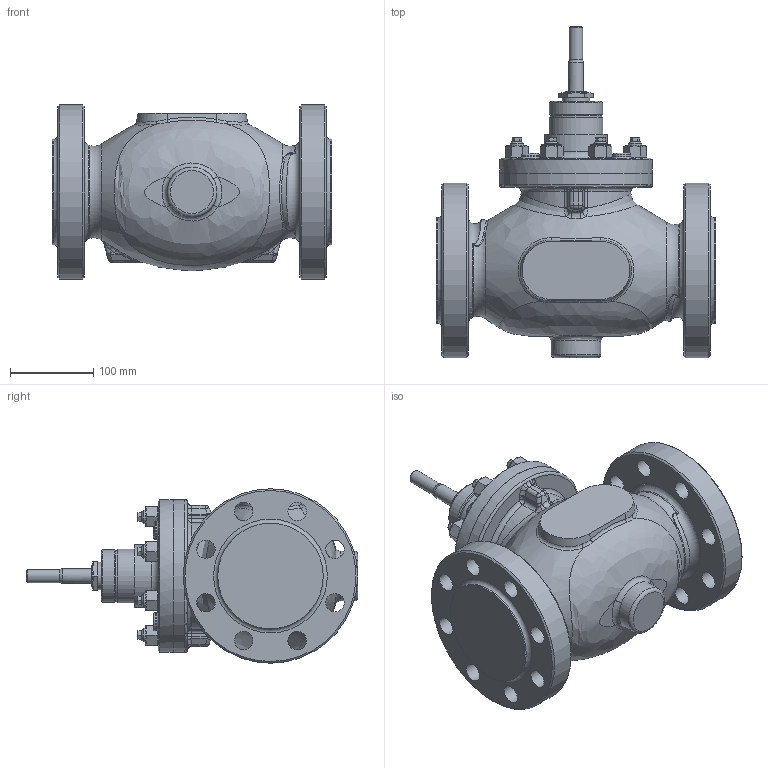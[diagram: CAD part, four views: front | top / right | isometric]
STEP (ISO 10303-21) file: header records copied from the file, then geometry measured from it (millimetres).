
FILE_DESCRIPTION(/* description */ (''),/* implementation_level */ '2;1');
FILE_NAME(/* name */ 'CV3xx_NPS_1_priruba_CL600.stp',/* time_stamp */ '2014-01-07T06:42:09+01:00',/* author */ (''),/* organization */ ('LDM'),/* preprocessor_version */ 'ST-DEVELOPER v11',/* originating_system */ 'SIEMENS PLM Software NX 7.0',/* authorisation */ '');
FILE_SCHEMA (('CONFIG_CONTROL_DESIGN'));
Length unit declared in the file: millimetre
Products named in the file (1): adamED63ysx0
Bounding box: 337 x 399 x 210 mm (x, y, z)
Volume: 8902862.7 mm3; surface area: 441498.1 mm2
Topology: 1 solids, 9 shells, 618 faces, 1407 edges, 831 vertices
Faces by surface type: cone 188, plane 186, cylinder 128, bspline 66, torus 30, sphere 20
Full cylindrical faces by diameter (mm): 16 x25, 18 x1, 22 x4, 22.3 x16, 24 x16, 27 x1, 33 x1, 60 x1, 61.6 x1, 64 x1, 65 x1, 75 x1, 120 x1, 127 x2, 184 x2, 210 x2
Entity records: 18672 total; most frequent: CARTESIAN_POINT 6423, ORIENTED_EDGE 2412, DIRECTION 2378, EDGE_CURVE 1206, AXIS2_PLACEMENT_3D 1060, EDGE_LOOP 843, VERTEX_POINT 767, ADVANCED_FACE 618
